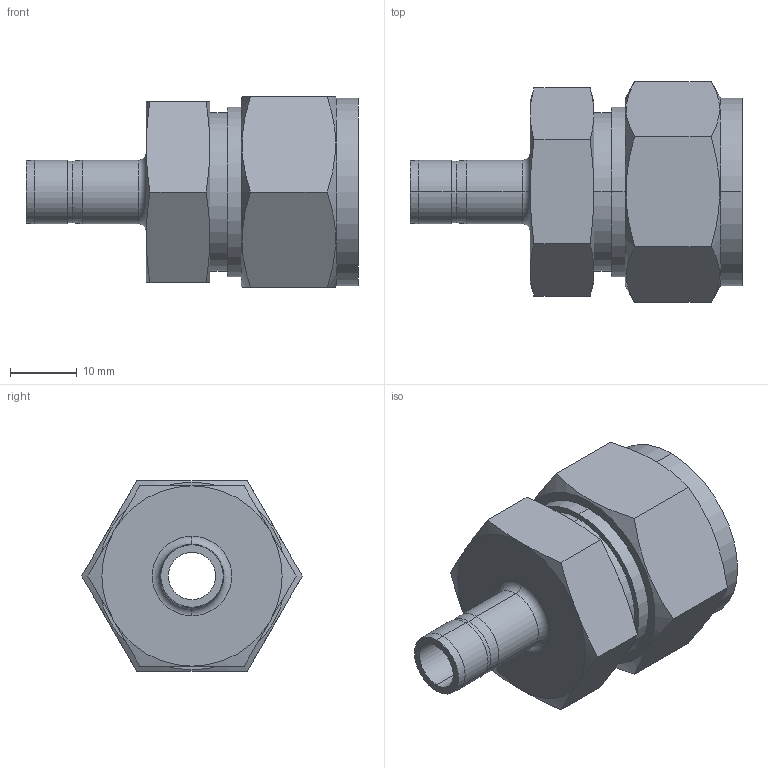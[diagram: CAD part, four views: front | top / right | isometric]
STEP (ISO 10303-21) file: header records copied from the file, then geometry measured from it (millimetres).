
FILE_DESCRIPTION (( 'STEP AP203' ), '1' );
FILE_NAME ('DRE12-06 SS.STEP', '2009-09-08T08:38:43', ( ' ' ), ( '' ), 'SwSTEP 2.0', 'SolidWorks 2008', '' );
FILE_SCHEMA (( 'CONFIG_CONTROL_DESIGN' ));
Length unit declared in the file: millimetre
Products named in the file (1): DRE12-06 SS
Bounding box: 49.7 x 33 x 28.58 mm (x, y, z)
Volume: 13008.6 mm3; surface area: 7132.8 mm2
Topology: 1 solids, 1 shells, 63 faces, 138 edges, 82 vertices
Faces by surface type: cone 24, plane 19, cylinder 18, torus 2
Entity records: 1965 total; most frequent: CARTESIAN_POINT 540, DIRECTION 282, ORIENTED_EDGE 276, EDGE_CURVE 138, AXIS2_PLACEMENT_3D 120, VERTEX_POINT 82, EDGE_LOOP 70, FACE_OUTER_BOUND 63
